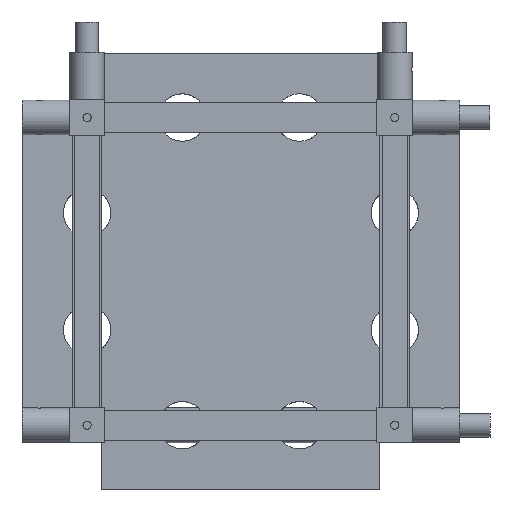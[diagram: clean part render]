
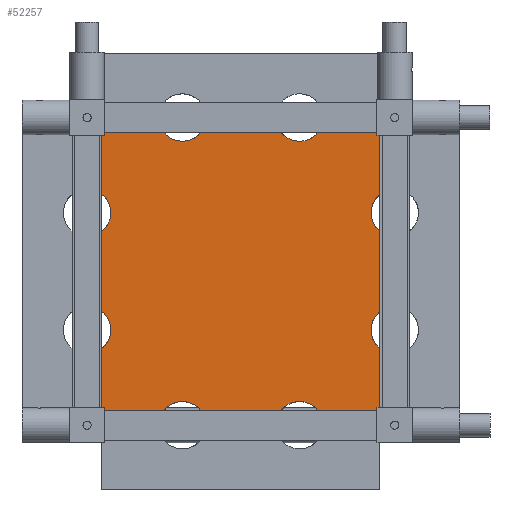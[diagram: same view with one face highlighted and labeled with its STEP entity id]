
A CAD part, front view. The second image highlights one B-rep face of the part: STEP entity #52257.
In plain terms, the highlighted planar face has unit normal (0, -1, 0).
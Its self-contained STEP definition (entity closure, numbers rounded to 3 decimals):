
#314=CIRCLE('',#55089,40.);
#315=CIRCLE('',#55090,40.);
#316=CIRCLE('',#55091,40.);
#317=CIRCLE('',#55092,40.);
#318=CIRCLE('',#55093,40.);
#319=CIRCLE('',#55094,40.);
#320=CIRCLE('',#55095,40.);
#321=CIRCLE('',#55096,40.);
#1230=PLANE('',#55088);
#3487=LINE('',#73104,#9435);
#3488=LINE('',#73108,#9436);
#3489=LINE('',#73110,#9437);
#3490=LINE('',#73114,#9438);
#3491=LINE('',#73118,#9439);
#3492=LINE('',#73120,#9440);
#3493=LINE('',#73124,#9441);
#3494=LINE('',#73128,#9442);
#3495=LINE('',#73130,#9443);
#3496=LINE('',#73134,#9444);
#3497=LINE('',#73138,#9445);
#3498=LINE('',#73140,#9446);
#9435=VECTOR('',#59000,10.);
#9436=VECTOR('',#59003,10.);
#9437=VECTOR('',#59004,10.);
#9438=VECTOR('',#59007,10.);
#9439=VECTOR('',#59010,10.);
#9440=VECTOR('',#59011,10.);
#9441=VECTOR('',#59014,10.);
#9442=VECTOR('',#59017,10.);
#9443=VECTOR('',#59018,10.);
#9444=VECTOR('',#59021,10.);
#9445=VECTOR('',#59024,10.);
#9446=VECTOR('',#59025,10.);
#15806=FACE_OUTER_BOUND('',#18600,.T.);
#18600=EDGE_LOOP('',(#34518,#34519,#34520,#34521,#34522,#34523,#34524,#34525,
#34526,#34527,#34528,#34529,#34530,#34531,#34532,#34533,#34534,#34535,#34536,
#34537));
#22136=VERTEX_POINT('',#73102);
#22137=VERTEX_POINT('',#73103);
#22138=VERTEX_POINT('',#73105);
#22139=VERTEX_POINT('',#73107);
#22140=VERTEX_POINT('',#73109);
#22141=VERTEX_POINT('',#73111);
#22142=VERTEX_POINT('',#73113);
#22143=VERTEX_POINT('',#73115);
#22144=VERTEX_POINT('',#73117);
#22145=VERTEX_POINT('',#73119);
#22146=VERTEX_POINT('',#73121);
#22147=VERTEX_POINT('',#73123);
#22148=VERTEX_POINT('',#73125);
#22149=VERTEX_POINT('',#73127);
#22150=VERTEX_POINT('',#73129);
#22151=VERTEX_POINT('',#73131);
#22152=VERTEX_POINT('',#73133);
#22153=VERTEX_POINT('',#73135);
#22154=VERTEX_POINT('',#73137);
#22155=VERTEX_POINT('',#73139);
#27020=EDGE_CURVE('',#22136,#22137,#3487,.T.);
#27021=EDGE_CURVE('',#22137,#22138,#314,.T.);
#27022=EDGE_CURVE('',#22138,#22139,#3488,.T.);
#27023=EDGE_CURVE('',#22139,#22140,#3489,.T.);
#27024=EDGE_CURVE('',#22140,#22141,#315,.T.);
#27025=EDGE_CURVE('',#22141,#22142,#3490,.T.);
#27026=EDGE_CURVE('',#22142,#22143,#316,.T.);
#27027=EDGE_CURVE('',#22143,#22144,#3491,.T.);
#27028=EDGE_CURVE('',#22145,#22144,#3492,.T.);
#27029=EDGE_CURVE('',#22145,#22146,#317,.T.);
#27030=EDGE_CURVE('',#22147,#22146,#3493,.T.);
#27031=EDGE_CURVE('',#22147,#22148,#318,.T.);
#27032=EDGE_CURVE('',#22149,#22148,#3494,.T.);
#27033=EDGE_CURVE('',#22149,#22150,#3495,.T.);
#27034=EDGE_CURVE('',#22150,#22151,#319,.T.);
#27035=EDGE_CURVE('',#22151,#22152,#3496,.T.);
#27036=EDGE_CURVE('',#22152,#22153,#320,.T.);
#27037=EDGE_CURVE('',#22153,#22154,#3497,.T.);
#27038=EDGE_CURVE('',#22154,#22155,#3498,.T.);
#27039=EDGE_CURVE('',#22155,#22136,#321,.T.);
#34518=ORIENTED_EDGE('',*,*,#27020,.T.);
#34519=ORIENTED_EDGE('',*,*,#27021,.T.);
#34520=ORIENTED_EDGE('',*,*,#27022,.T.);
#34521=ORIENTED_EDGE('',*,*,#27023,.T.);
#34522=ORIENTED_EDGE('',*,*,#27024,.T.);
#34523=ORIENTED_EDGE('',*,*,#27025,.T.);
#34524=ORIENTED_EDGE('',*,*,#27026,.T.);
#34525=ORIENTED_EDGE('',*,*,#27027,.T.);
#34526=ORIENTED_EDGE('',*,*,#27028,.F.);
#34527=ORIENTED_EDGE('',*,*,#27029,.T.);
#34528=ORIENTED_EDGE('',*,*,#27030,.F.);
#34529=ORIENTED_EDGE('',*,*,#27031,.T.);
#34530=ORIENTED_EDGE('',*,*,#27032,.F.);
#34531=ORIENTED_EDGE('',*,*,#27033,.T.);
#34532=ORIENTED_EDGE('',*,*,#27034,.T.);
#34533=ORIENTED_EDGE('',*,*,#27035,.T.);
#34534=ORIENTED_EDGE('',*,*,#27036,.T.);
#34535=ORIENTED_EDGE('',*,*,#27037,.T.);
#34536=ORIENTED_EDGE('',*,*,#27038,.T.);
#34537=ORIENTED_EDGE('',*,*,#27039,.T.);
#52257=ADVANCED_FACE('',(#15806),#1230,.F.);
#55088=AXIS2_PLACEMENT_3D('',#73101,#58998,#58999);
#55089=AXIS2_PLACEMENT_3D('',#73106,#59001,#59002);
#55090=AXIS2_PLACEMENT_3D('',#73112,#59005,#59006);
#55091=AXIS2_PLACEMENT_3D('',#73116,#59008,#59009);
#55092=AXIS2_PLACEMENT_3D('',#73122,#59012,#59013);
#55093=AXIS2_PLACEMENT_3D('',#73126,#59015,#59016);
#55094=AXIS2_PLACEMENT_3D('',#73132,#59019,#59020);
#55095=AXIS2_PLACEMENT_3D('',#73136,#59022,#59023);
#55096=AXIS2_PLACEMENT_3D('',#73141,#59026,#59027);
#58998=DIRECTION('center_axis',(0.,1.,0.));
#58999=DIRECTION('ref_axis',(0.,0.,
1.));
#59000=DIRECTION('',(1.,0.,0.));
#59001=DIRECTION('center_axis',(0.,1.,0.));
#59002=DIRECTION('ref_axis',(-1.,0.,0.));
#59003=DIRECTION('',(1.,0.,0.));
#59004=DIRECTION('',(0.,0.,1.));
#59005=DIRECTION('center_axis',(0.,1.,0.));
#59006=DIRECTION('ref_axis',(-1.,0.,0.));
#59007=DIRECTION('',(0.,0.,1.));
#59008=DIRECTION('center_axis',(0.,1.,0.));
#59009=DIRECTION('ref_axis',(-1.,0.,0.));
#59010=DIRECTION('',(0.,0.,1.));
#59011=DIRECTION('',(1.,0.,0.));
#59012=DIRECTION('center_axis',(0.,1.,0.));
#59013=DIRECTION('ref_axis',(-1.,0.,0.));
#59014=DIRECTION('',(1.,0.,0.));
#59015=DIRECTION('center_axis',(0.,1.,0.));
#59016=DIRECTION('ref_axis',(-1.,0.,0.));
#59017=DIRECTION('',(1.,0.,0.));
#59018=DIRECTION('',(0.,0.,-1.));
#59019=DIRECTION('center_axis',(0.,1.,0.));
#59020=DIRECTION('ref_axis',(-1.,0.,0.));
#59021=DIRECTION('',(0.,0.,-1.));
#59022=DIRECTION('center_axis',(0.,1.,0.));
#59023=DIRECTION('ref_axis',(-1.,0.,0.));
#59024=DIRECTION('',(0.,0.,-1.));
#59025=DIRECTION('',(1.,0.,0.));
#59026=DIRECTION('center_axis',(0.,1.,0.));
#59027=DIRECTION('ref_axis',(-1.,0.,0.));
#73101=CARTESIAN_POINT('Origin',(370.,74.,-260.));
#73102=CARTESIAN_POINT('',(302.18,74.,-495.));
#73103=CARTESIAN_POINT('',(437.82,74.,-495.));
#73104=CARTESIAN_POINT('',(127.,74.,-495.));
#73105=CARTESIAN_POINT('',(500.27,74.,-495.));
#73106=CARTESIAN_POINT('Origin',(469.045,74.,-520.));
#73107=CARTESIAN_POINT('',(605.,74.,-495.));
#73108=CARTESIAN_POINT('',(127.,74.,-495.));
#73109=CARTESIAN_POINT('',(605.,74.,-390.27));
#73110=CARTESIAN_POINT('',(605.,74.,-503.));
#73111=CARTESIAN_POINT('',(605.,74.,-327.82));
#73112=CARTESIAN_POINT('Origin',(630.,74.,-359.045));
#73113=CARTESIAN_POINT('',(605.,74.,-192.18));
#73114=CARTESIAN_POINT('',(605.,74.,-503.));
#73115=CARTESIAN_POINT('',(605.,74.,-129.73));
#73116=CARTESIAN_POINT('Origin',(630.,74.,-160.955));
#73117=CARTESIAN_POINT('',(605.,74.,-25.));
#73118=CARTESIAN_POINT('',(605.,74.,-503.));
#73119=CARTESIAN_POINT('',(500.27,74.,-25.));
#73120=CARTESIAN_POINT('',(127.,74.,-25.));
#73121=CARTESIAN_POINT('',(437.82,74.,-25.));
#73122=CARTESIAN_POINT('Origin',(469.045,74.,0.));
#73123=CARTESIAN_POINT('',(302.18,74.,-25.));
#73124=CARTESIAN_POINT('',(127.,74.,-25.));
#73125=CARTESIAN_POINT('',(239.73,74.,-25.));
#73126=CARTESIAN_POINT('Origin',(270.955,74.,0.));
#73127=CARTESIAN_POINT('',(135.,74.,-25.));
#73128=CARTESIAN_POINT('',(127.,74.,-25.));
#73129=CARTESIAN_POINT('',(135.,74.,-129.73));
#73130=CARTESIAN_POINT('',(135.,74.,-17.));
#73131=CARTESIAN_POINT('',(135.,74.,-192.18));
#73132=CARTESIAN_POINT('Origin',(110.,74.,-160.955));
#73133=CARTESIAN_POINT('',(135.,74.,-327.82));
#73134=CARTESIAN_POINT('',(135.,74.,-17.));
#73135=CARTESIAN_POINT('',(135.,74.,-390.27));
#73136=CARTESIAN_POINT('Origin',(110.,74.,-359.045));
#73137=CARTESIAN_POINT('',(135.,74.,-495.));
#73138=CARTESIAN_POINT('',(135.,74.,-17.));
#73139=CARTESIAN_POINT('',(239.73,74.,-495.));
#73140=CARTESIAN_POINT('',(127.,74.,-495.));
#73141=CARTESIAN_POINT('Origin',(270.955,74.,-520.));
